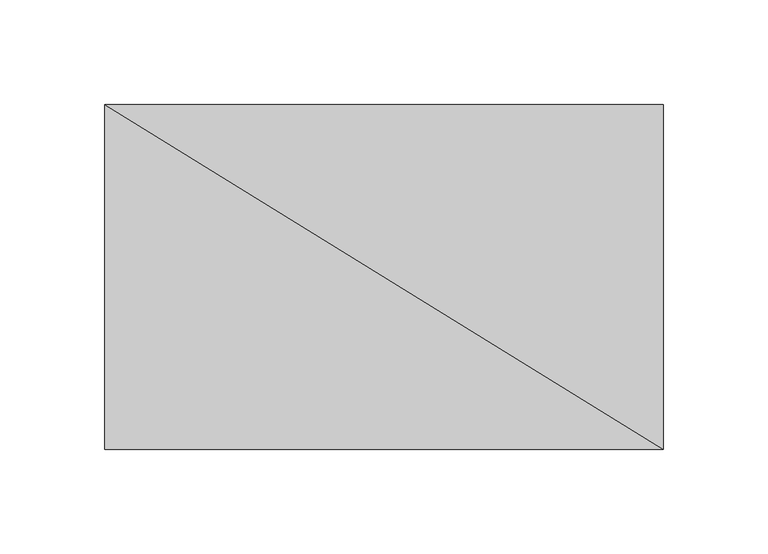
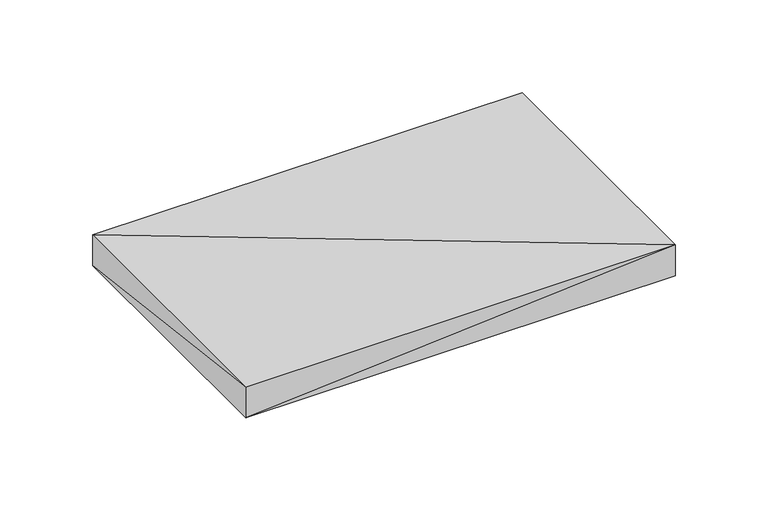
"""IFC4 building model written with IfcOpenShell, lengths in millimetres: geographic element geometry, Enscape AssetDefinition - Envelopes : Enscape AssetDefinition - Envelopes."""

from ifc_helpers import new_model, si_unit, origin, place, context, project, spatial, faceted_brep, source, transform, mapped, element, save


def geographic_element_a1bea7bb(model_context):
    return source(origin(), model_context, "Body", "Brep", [
        faceted_brep([(-155.6060016, -79.4640034, -2.4999999), (-155.6060016, -79.4640034, 17.7459996), (-155.6060016, 85.3729993, -2.4999999), (-155.6060016, 85.3729993, 17.7459996), (111.3049984, 85.3729993, -2.4999999), (111.3049984, 85.3729993, 17.7459996), (111.3049984, -79.4640034, -2.4999999), (111.3049984, -79.4640034, 17.7459996)], [[[0, 1, 2]], [[2, 3, 4]], [[4, 5, 6]], [[6, 7, 0]], [[2, 4, 0]], [[5, 3, 7]], [[2, 1, 3]], [[4, 3, 5]], [[6, 5, 7]], [[0, 7, 1]], [[0, 4, 6]], [[7, 3, 1]]]),
    ])


if __name__ == "__main__":
    model = new_model("IFC4")
    model_context = context("Model", 3, world=origin())
    ifc_project = project(units=[si_unit("LENGTHUNIT", "METRE", prefix="MILLI")], contexts=[model_context])
    site = spatial("IfcSite", under=ifc_project)
    building = spatial("IfcBuilding", under=site)
    placement = place(None, origin())
    geographic_element_shape = geographic_element_a1bea7bb(model_context)
    element("IfcGeographicElement", 1, ObjectType="Enscape AssetDefinition - Envelopes : Enscape AssetDefinition - Envelopes", at=placement, inside=building, context=model_context, shape_type="MappedRepresentation", body=[
        mapped(geographic_element_shape, transform((0.0, 0.0, 0.0), x_axis=(1.0, 0.0, 0.0), y_axis=(0.0, 1.0, 0.0), z_axis=(0.0, 0.0, 1.0))),
    ])
    save(model, "model.ifc")
